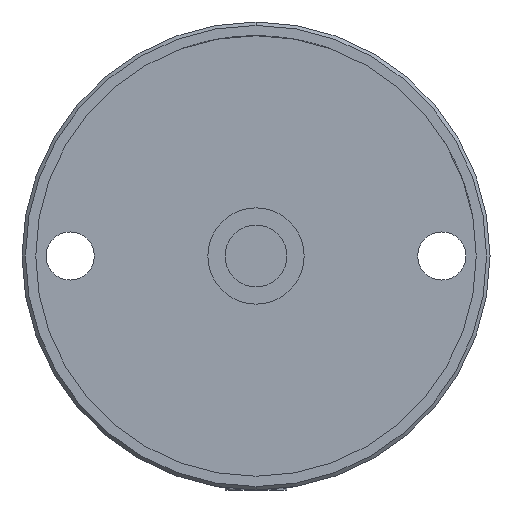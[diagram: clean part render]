
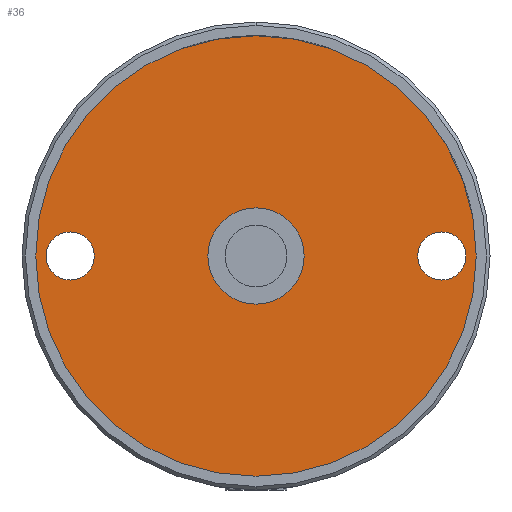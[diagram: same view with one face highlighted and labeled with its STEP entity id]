
A CAD part, front view. The second image highlights one B-rep face of the part: STEP entity #36.
In plain terms, the highlighted planar face has unit normal (0, -1, 0).
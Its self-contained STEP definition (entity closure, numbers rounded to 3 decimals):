
#16 = ORIENTED_EDGE ( 'NONE', *, *, #2315, .F. ) ;
#36 = ADVANCED_FACE ( 'NONE', ( #2036, #438, #2317, #1257 ), #640, .F. ) ;
#38 = CARTESIAN_POINT ( 'NONE',  ( 27., 0., 0. ) ) ;
#80 = DIRECTION ( 'NONE',  ( 0., 1., 0. ) ) ;
#95 = VERTEX_POINT ( 'NONE', #1980 ) ;
#161 = CARTESIAN_POINT ( 'NONE',  ( 27., 0., 0. ) ) ;
#245 = CARTESIAN_POINT ( 'NONE',  ( -27., 0., 0. ) ) ;
#246 = AXIS2_PLACEMENT_3D ( 'NONE', #245, #967, #607 ) ;
#268 = CIRCLE ( 'NONE', #2128, 7. ) ;
#280 = DIRECTION ( 'NONE',  ( 0., 0., 1. ) ) ;
#291 = CARTESIAN_POINT ( 'NONE',  ( 27., 0., -3.5 ) ) ;
#337 = DIRECTION ( 'NONE',  ( 0., -1., 0. ) ) ;
#414 = AXIS2_PLACEMENT_3D ( 'NONE', #661, #2151, #1934 ) ;
#438 = FACE_BOUND ( 'NONE', #1541, .T. ) ;
#442 = AXIS2_PLACEMENT_3D ( 'NONE', #161, #1433, #1790 ) ;
#482 = CIRCLE ( 'NONE', #414, 32. ) ;
#499 = ORIENTED_EDGE ( 'NONE', *, *, #586, .F. ) ;
#575 = CIRCLE ( 'NONE', #1899, 3.5 ) ;
#584 = DIRECTION ( 'NONE',  ( 0., 0., -1. ) ) ;
#586 = EDGE_CURVE ( 'NONE', #2238, #2309, #2249, .T. ) ;
#590 = VERTEX_POINT ( 'NONE', #1881 ) ;
#597 = ORIENTED_EDGE ( 'NONE', *, *, #830, .F. ) ;
#607 = DIRECTION ( 'NONE',  ( 0., 0., -1. ) ) ;
#631 = CARTESIAN_POINT ( 'NONE',  ( 0., 0., 7. ) ) ;
#640 = PLANE ( 'NONE',  #835 ) ;
#658 = CARTESIAN_POINT ( 'NONE',  ( 0., 0., 0. ) ) ;
#661 = CARTESIAN_POINT ( 'NONE',  ( 0., 0., 0. ) ) ;
#695 = ORIENTED_EDGE ( 'NONE', *, *, #1063, .F. ) ;
#713 = DIRECTION ( 'NONE',  ( 0., -1., 0. ) ) ;
#763 = EDGE_LOOP ( 'NONE', ( #695, #499 ) ) ;
#781 = CARTESIAN_POINT ( 'NONE',  ( 27., 0., 3.5 ) ) ;
#830 = EDGE_CURVE ( 'NONE', #2188, #95, #482, .T. ) ;
#835 = AXIS2_PLACEMENT_3D ( 'NONE', #1906, #80, #280 ) ;
#855 = ORIENTED_EDGE ( 'NONE', *, *, #1605, .F. ) ;
#900 = EDGE_CURVE ( 'NONE', #95, #2188, #1021, .T. ) ;
#967 = DIRECTION ( 'NONE',  ( 0., -1., 0. ) ) ;
#996 = EDGE_CURVE ( 'NONE', #1379, #2263, #1242, .T. ) ;
#1021 = CIRCLE ( 'NONE', #1382, 32. ) ;
#1037 = EDGE_LOOP ( 'NONE', ( #16, #855 ) ) ;
#1063 = EDGE_CURVE ( 'NONE', #2309, #2238, #1332, .T. ) ;
#1073 = DIRECTION ( 'NONE',  ( 0., -1., 0. ) ) ;
#1090 = ORIENTED_EDGE ( 'NONE', *, *, #1210, .F. ) ;
#1118 = AXIS2_PLACEMENT_3D ( 'NONE', #658, #1753, #1938 ) ;
#1210 = EDGE_CURVE ( 'NONE', #2263, #1379, #575, .T. ) ;
#1231 = ORIENTED_EDGE ( 'NONE', *, *, #996, .F. ) ;
#1242 = CIRCLE ( 'NONE', #442, 3.5 ) ;
#1257 = FACE_OUTER_BOUND ( 'NONE', #1741, .T. ) ;
#1332 = CIRCLE ( 'NONE', #1746, 3.5 ) ;
#1366 = CARTESIAN_POINT ( 'NONE',  ( 0., 0., -32. ) ) ;
#1379 = VERTEX_POINT ( 'NONE', #781 ) ;
#1382 = AXIS2_PLACEMENT_3D ( 'NONE', #1582, #1767, #1947 ) ;
#1423 = DIRECTION ( 'NONE',  ( 0., 0., -1. ) ) ;
#1433 = DIRECTION ( 'NONE',  ( 0., -1., 0. ) ) ;
#1439 = VERTEX_POINT ( 'NONE', #631 ) ;
#1541 = EDGE_LOOP ( 'NONE', ( #1090, #1231 ) ) ;
#1581 = CARTESIAN_POINT ( 'NONE',  ( -27., 0., 3.5 ) ) ;
#1582 = CARTESIAN_POINT ( 'NONE',  ( 0., 0., 0. ) ) ;
#1595 = CARTESIAN_POINT ( 'NONE',  ( 0., 0., 0. ) ) ;
#1605 = EDGE_CURVE ( 'NONE', #1439, #590, #2167, .T. ) ;
#1717 = ORIENTED_EDGE ( 'NONE', *, *, #900, .F. ) ;
#1741 = EDGE_LOOP ( 'NONE', ( #597, #1717 ) ) ;
#1746 = AXIS2_PLACEMENT_3D ( 'NONE', #1855, #1073, #2153 ) ;
#1753 = DIRECTION ( 'NONE',  ( 0., -1., 0. ) ) ;
#1767 = DIRECTION ( 'NONE',  ( 0., 1., 0. ) ) ;
#1790 = DIRECTION ( 'NONE',  ( 0., 0., -1. ) ) ;
#1855 = CARTESIAN_POINT ( 'NONE',  ( -27., 0., 0. ) ) ;
#1881 = CARTESIAN_POINT ( 'NONE',  ( 0., 0., -7. ) ) ;
#1899 = AXIS2_PLACEMENT_3D ( 'NONE', #38, #713, #584 ) ;
#1906 = CARTESIAN_POINT ( 'NONE',  ( 0., 0., 0. ) ) ;
#1934 = DIRECTION ( 'NONE',  ( 0., 0., 1. ) ) ;
#1938 = DIRECTION ( 'NONE',  ( 0., 0., -1. ) ) ;
#1947 = DIRECTION ( 'NONE',  ( 0., 0., 1. ) ) ;
#1980 = CARTESIAN_POINT ( 'NONE',  ( 0., 0., 32. ) ) ;
#2036 = FACE_BOUND ( 'NONE', #1037, .T. ) ;
#2128 = AXIS2_PLACEMENT_3D ( 'NONE', #1595, #337, #1423 ) ;
#2151 = DIRECTION ( 'NONE',  ( 0., 1., 0. ) ) ;
#2153 = DIRECTION ( 'NONE',  ( 0., 0., -1. ) ) ;
#2167 = CIRCLE ( 'NONE', #1118, 7. ) ;
#2188 = VERTEX_POINT ( 'NONE', #1366 ) ;
#2238 = VERTEX_POINT ( 'NONE', #1581 ) ;
#2249 = CIRCLE ( 'NONE', #246, 3.5 ) ;
#2263 = VERTEX_POINT ( 'NONE', #291 ) ;
#2309 = VERTEX_POINT ( 'NONE', #2331 ) ;
#2315 = EDGE_CURVE ( 'NONE', #590, #1439, #268, .T. ) ;
#2317 = FACE_BOUND ( 'NONE', #763, .T. ) ;
#2331 = CARTESIAN_POINT ( 'NONE',  ( -27., 0., -3.5 ) ) ;
